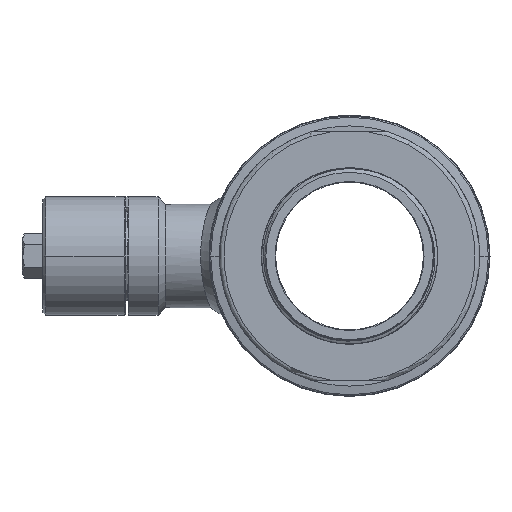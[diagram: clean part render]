
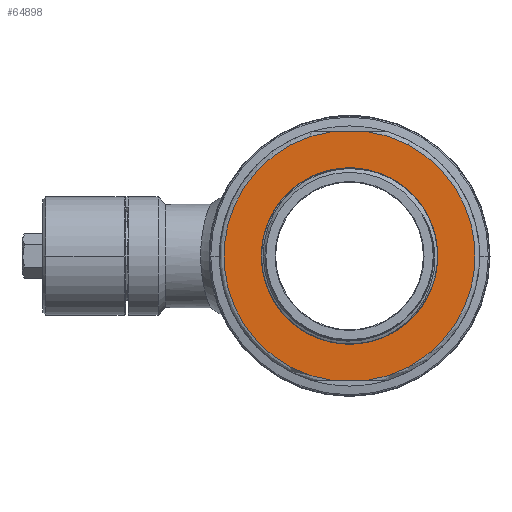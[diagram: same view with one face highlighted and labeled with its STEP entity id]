
A CAD part, left-side view. The second image highlights one B-rep face of the part: STEP entity #64898.
In plain terms, the highlighted planar face has unit normal (-1, 0, 0).
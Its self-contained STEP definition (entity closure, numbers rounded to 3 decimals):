
#21128=CARTESIAN_POINT('',(-49.,0.,0.));
#21129=DIRECTION('',(1.,0.,0.));
#21130=DIRECTION('',(0.,-0.153,0.988));
#21131=AXIS2_PLACEMENT_3D('',#21128,#21129,#21130);
#21136=DIRECTION('',(0.,-1.,0.));
#21137=VECTOR('',#21136,13.);
#21138=CARTESIAN_POINT('',(-49.,6.5,-42.));
#21139=LINE('',#21138,#21137);
#21143=CARTESIAN_POINT('',(-49.,0.,0.));
#21144=DIRECTION('',(1.,0.,0.));
#21145=DIRECTION('',(0.,0.153,-0.988));
#21146=AXIS2_PLACEMENT_3D('',#21143,#21144,#21145);
#21151=DIRECTION('',(0.,-1.,0.));
#21152=VECTOR('',#21151,13.);
#21153=CARTESIAN_POINT('',(-49.,6.5,42.));
#21154=LINE('',#21153,#21152);
#21158=CARTESIAN_POINT('',(-49.,0.,0.));
#21159=DIRECTION('',(1.,0.,0.));
#21160=DIRECTION('',(0.,1.,0.));
#21161=AXIS2_PLACEMENT_3D('',#21158,#21159,#21160);
#21166=CARTESIAN_POINT('',(-49.,0.,0.));
#21167=DIRECTION('',(-1.,0.,0.));
#21168=DIRECTION('',(0.,1.,0.));
#21169=AXIS2_PLACEMENT_3D('',#21166,#21167,#21168);
#21208=CARTESIAN_POINT('',(-49.,-6.5,-42.));
#21354=CARTESIAN_POINT('',(-49.,6.5,42.));
#52920=VERTEX_POINT('',#21208);
#52921=CARTESIAN_POINT('',(-49.,-6.5,42.));
#52922=VERTEX_POINT('',#52921);
#52925=VERTEX_POINT('',#21354);
#52926=CARTESIAN_POINT('',(-49.,6.5,-42.));
#52927=VERTEX_POINT('',#52926);
#52929=CARTESIAN_POINT('',(-49.,29.8,0.));
#52930=CARTESIAN_POINT('',(-49.,-29.8,0.));
#52931=VERTEX_POINT('',#52929);
#52932=VERTEX_POINT('',#52930);
#64879=CARTESIAN_POINT('',(-49.,0.,0.));
#64880=DIRECTION('',(-1.,0.,0.));
#64881=DIRECTION('',(0.,-1.,0.));
#64882=AXIS2_PLACEMENT_3D('',#64879,#64880,#64881);
#64883=PLANE('',#64882);
#64885=ORIENTED_EDGE('',*,*,#64884,.T.);
#64887=ORIENTED_EDGE('',*,*,#64886,.F.);
#64889=ORIENTED_EDGE('',*,*,#64888,.T.);
#64891=ORIENTED_EDGE('',*,*,#64890,.T.);
#64892=EDGE_LOOP('',(#64885,#64887,#64889,#64891));
#64893=FACE_OUTER_BOUND('',#64892,.F.);
#64894=ORIENTED_EDGE('',*,*,#64844,.F.);
#64895=ORIENTED_EDGE('',*,*,#64873,.T.);
#64896=EDGE_LOOP('',(#64894,#64895));
#64897=FACE_BOUND('',#64896,.F.);
#64898=ADVANCED_FACE('',(#64893,#64897),#64883,.T.);
#21132=CIRCLE('',#21131,42.5);
#21147=CIRCLE('',#21146,42.5);
#21162=CIRCLE('',#21161,29.8);
#21170=CIRCLE('',#21169,29.8);
#64844=EDGE_CURVE('',#52931,#52932,#21162,.T.);
#64873=EDGE_CURVE('',#52931,#52932,#21170,.T.);
#64884=EDGE_CURVE('',#52922,#52920,#21132,.T.);
#64886=EDGE_CURVE('',#52927,#52920,#21139,.T.);
#64888=EDGE_CURVE('',#52927,#52925,#21147,.T.);
#64890=EDGE_CURVE('',#52925,#52922,#21154,.T.);
